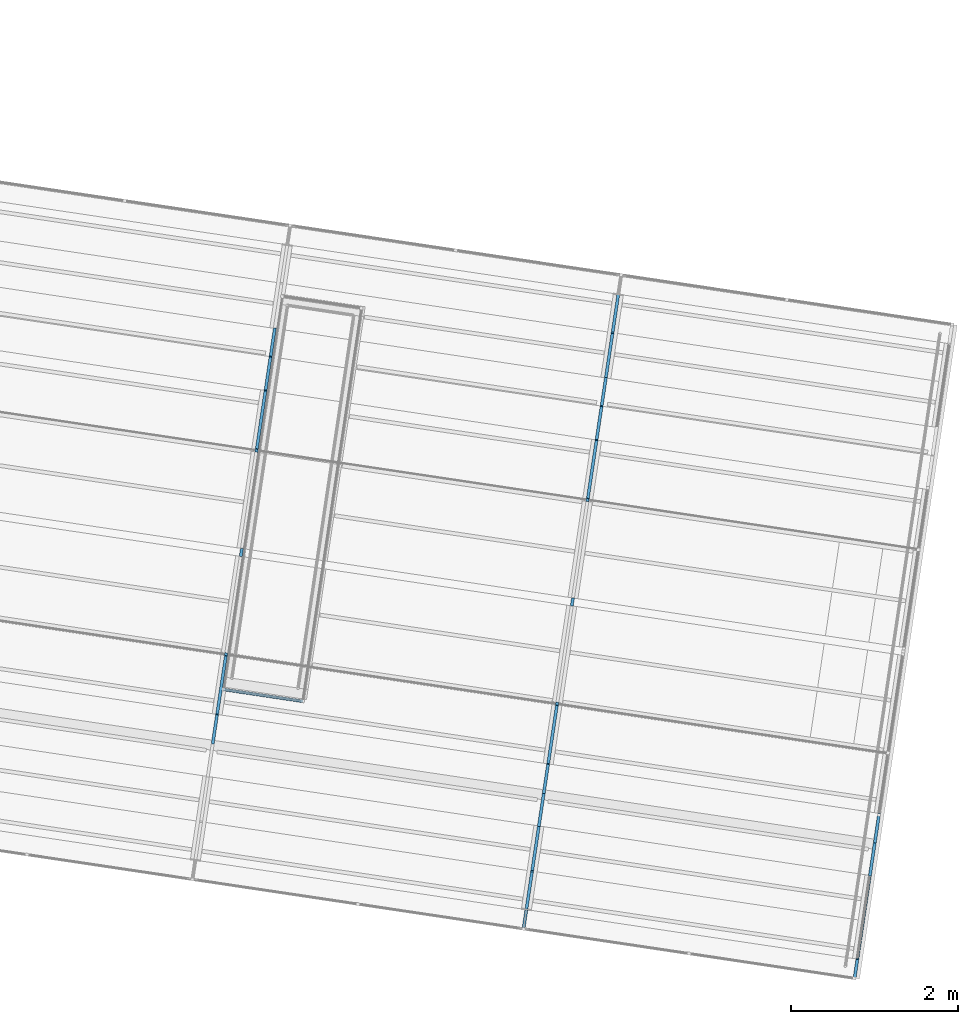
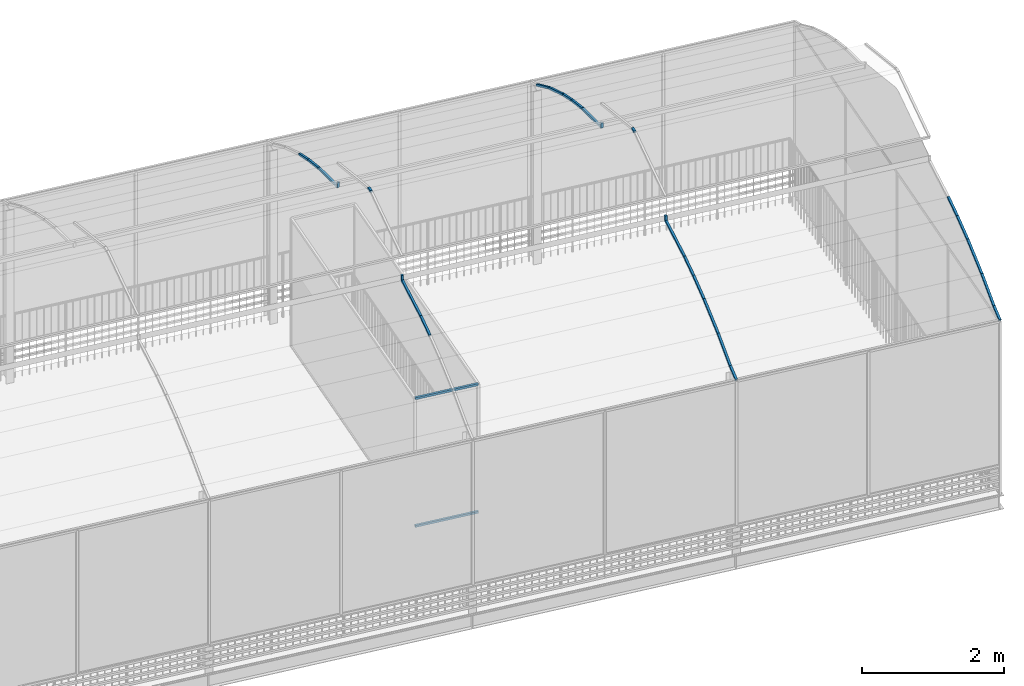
# One storey, part 22 of 34: 29 members, 1 element without a shape of its own.
"""IFC4 building model written with IfcOpenShell, lengths in metres."""

import ifcopenshell
import ifcopenshell.guid

model = None  # the IFC model being written
_history = None  # IfcOwnerHistory: only IFC2X3 demands one
_inside = {}  # id of a spatial element -> (the spatial element, [elements in it])
_under = {}  # id of a project, library or spatial element -> (it, [spatial elements below it])
_declared = {}  # id of a project -> (the project, [libraries it declares])
_typed = {}  # id of a type object -> (the type object, [elements of that type])
_made_of = {}  # id of a material, layer set ... -> (it, [elements and type objects made of it])


def new_model(schema):
    """Start an empty IFC model of exactly this schema.

    Asked for "IFC4X3", IfcOpenShell would pick the latest addendum, in which some entities
    have other attributes; the version numbers below select the first issue.
    IFC2X3 requires an IfcOwnerHistory on every rooted entity: one is made here for all.
    """
    global model, _history
    if schema == "IFC4X3":
        model = ifcopenshell.file(schema_version=(4, 3, 0, 0))
    else:
        model = ifcopenshell.file(schema=schema)
    _inside.clear()
    _under.clear()
    _declared.clear()
    _typed.clear()
    _made_of.clear()
    _history = None
    if model.schema == "IFC2X3":
        org = make("IfcOrganization", Name="unknown")
        user = make(
            "IfcPersonAndOrganization",
            ThePerson=make("IfcPerson", FamilyName="unknown"),
            TheOrganization=org,
        )
        app = make(
            "IfcApplication",
            ApplicationDeveloper=org,
            Version="unknown",
            ApplicationFullName="unknown",
            ApplicationIdentifier="unknown",
        )
        _history = make(
            "IfcOwnerHistory",
            OwningUser=user,
            OwningApplication=app,
            ChangeAction="ADDED",
            CreationDate=0,
        )
    return model


def make(cls, **values):
    """One entity of the class cls with the attributes given. An attribute that is None is left unset."""
    return model.create_entity(
        cls, **{name: value for name, value in values.items() if value is not None}
    )


def rooted(cls, **values):
    """An entity with a GlobalId (a new one), such as an element, a storey or a relation."""
    return make(cls, GlobalId=ifcopenshell.guid.new(), OwnerHistory=_history, **values)


def si_unit(unit_type, name, prefix=None):
    """IfcSIUnit, for example si_unit("LENGTHUNIT", "METRE", prefix="MILLI")."""
    return make("IfcSIUnit", UnitType=unit_type, Prefix=prefix, Name=name)


def assignment(units):
    """IfcUnitAssignment: the units of a project."""
    return None if units is None else make("IfcUnitAssignment", Units=units)


def point(xyz):
    """IfcCartesianPoint."""
    return None if xyz is None else make("IfcCartesianPoint", Coordinates=xyz)


def direction(xyz):
    """IfcDirection."""
    return None if xyz is None else make("IfcDirection", DirectionRatios=xyz)


def frame(location, z_axis=None, x_axis=None):
    """IfcAxis2Placement3D, a coordinate frame: its origin and axes. An axis left out is left unset."""
    return make(
        "IfcAxis2Placement3D",
        Location=point(location),
        Axis=direction(z_axis),
        RefDirection=direction(x_axis),
    )


def origin_with_axes():
    """The frame at (0, 0, 0) with the z axis (0, 0, 1) and the x axis (1, 0, 0) written out."""
    return frame((0.0, 0.0, 0.0), z_axis=(0.0, 0.0, 1.0), x_axis=(1.0, 0.0, 0.0))


def place(relative_to, where):
    """IfcLocalPlacement: puts the frame where relative to a parent placement (None: the world)."""
    return make(
        "IfcLocalPlacement", PlacementRelTo=relative_to, RelativePlacement=where
    )


def context(
    kind, dimensions, precision=None, world=None, true_north=None, identifier=None
):
    """IfcGeometricRepresentationContext, for example the 3D "Model" context."""
    return make(
        "IfcGeometricRepresentationContext",
        ContextIdentifier=identifier,
        ContextType=kind,
        CoordinateSpaceDimension=dimensions,
        Precision=precision,
        WorldCoordinateSystem=world,
        TrueNorth=true_north,
    )


def subcontext(parent, identifier, kind, view, scale=None):
    """IfcGeometricRepresentationSubContext, for example "Body" below "Model"."""
    return make(
        "IfcGeometricRepresentationSubContext",
        ContextIdentifier=identifier,
        ContextType=kind,
        ParentContext=parent,
        TargetScale=scale,
        TargetView=view,
    )


def project(units=None, contexts=None):
    """IfcProject with its units and contexts."""
    return rooted(
        "IfcProject",
        Name="project",
        RepresentationContexts=contexts,
        UnitsInContext=assignment(units),
    )


def spatial(cls, under=None, at=None, **own):
    """A site, building, storey or space (cls), placed at a placement, below another one or the project."""
    s = rooted(cls, ObjectPlacement=at, **own)
    if under is not None:
        _under.setdefault(under.id(), (under, []))[1].append(s)
    return s


def profile(cls, at=None, kind="AREA", **sizes):
    """A parametric profile (cls). Its sizes go by their IFC names, for example OverallWidth=200.0."""
    return make(cls, ProfileType=kind, Position=at, **sizes)


def rectangle(**sizes):
    """IfcRectangleProfileDef."""
    return profile("IfcRectangleProfileDef", **sizes)


def extrude(swept, where, along, depth):
    """IfcExtrudedAreaSolid: the profile swept, set in the frame where, extruded along a direction by depth."""
    return make(
        "IfcExtrudedAreaSolid",
        SweptArea=swept,
        Position=where,
        ExtrudedDirection=direction(along),
        Depth=depth,
    )


def shape(context_of_items, identifier, shape_type, items):
    """IfcShapeRepresentation: the items that make up one representation, for example the "Body"."""
    return make(
        "IfcShapeRepresentation",
        ContextOfItems=context_of_items,
        RepresentationIdentifier=identifier,
        RepresentationType=shape_type,
        Items=items,
    )


def material(Name=None, Category=None):
    """IfcMaterial."""
    return make("IfcMaterial", Name=Name, Category=Category)


def material_profile(
    of_material, cross_section, Name=None, Category=None, Priority=None
):
    """IfcMaterialProfile: a cross section and its material."""
    return make(
        "IfcMaterialProfile",
        Name=Name,
        Material=of_material,
        Profile=cross_section,
        Priority=Priority,
        Category=Category,
    )


def profile_set(profiles, Name=None, composite=None):
    """IfcMaterialProfileSet."""
    return make(
        "IfcMaterialProfileSet",
        Name=Name,
        MaterialProfiles=profiles,
        CompositeProfile=composite,
    )


def profile_usage(for_profile_set, cardinal=None, extent=None):
    """IfcMaterialProfileSetUsage: how a profile set lies along its element."""
    return make(
        "IfcMaterialProfileSetUsage",
        ForProfileSet=for_profile_set,
        CardinalPoint=cardinal,
        ReferenceExtent=extent,
    )


def made_of(thing, what):
    """Note that an element or type object is made of a material, layer set ...; save() writes the relation."""
    if what is not None:
        _made_of.setdefault(what.id(), (what, []))[1].append(thing)
    return thing


def type_object(cls, material=None, **own):
    """A type object (cls), such as IfcWallType, which elements share."""
    return made_of(rooted(cls, **own), material)


def element(
    cls,
    number,
    at=None,
    inside=None,
    cuts=None,
    type_object=None,
    material=None,
    context=None,
    identifier="Body",
    shape_type=None,
    held_by="IfcProductDefinitionShape",
    body=None,
    shapes=None,
    **own,
):
    """One element of the class cls, such as IfcWall. Its Tag is "e" and its number.

    at: its placement. inside: the storey or other place that contains it. cuts: it is an
    opening in that element (IfcRelVoidsElement). A single representation is given by context,
    identifier, shape_type and body (its items); several are given by shapes. held_by: the class
    of the entity that holds the representations. save() writes the other relations.
    """
    e = rooted(cls, Tag="e%d" % number, ObjectPlacement=at, **own)
    if body is not None:
        shapes = [shape(context, identifier, shape_type, body)]
    if shapes is not None:
        e.Representation = make(held_by, Representations=shapes)
    if inside is not None:
        _inside.setdefault(inside.id(), (inside, []))[1].append(e)
    if cuts is not None:
        rooted(
            "IfcRelVoidsElement", RelatingBuildingElement=cuts, RelatedOpeningElement=e
        )
    if type_object is not None:
        _typed.setdefault(type_object.id(), (type_object, []))[1].append(e)
    return made_of(e, material)


def aggregate(whole, parts):
    """IfcRelAggregates: a whole, such as a stair, and the parts it consists of."""
    return rooted("IfcRelAggregates", RelatingObject=whole, RelatedObjects=parts)


def save(model, path):
    """Write the relations noted so far, then the file.

    IfcRelAggregates (storeys below a building ...), IfcRelContainedInSpatialStructure (elements
    in a storey), IfcRelDefinesByType, IfcRelAssociatesMaterial and IfcRelDeclares: one each for
    every whole, place, type object, material and project.
    """
    for whole, parts in _under.values():
        aggregate(whole, parts)
    for where, things in _inside.values():
        rooted(
            "IfcRelContainedInSpatialStructure",
            RelatedElements=things,
            RelatingStructure=where,
        )
    for kind, things in _typed.values():
        rooted("IfcRelDefinesByType", RelatedObjects=things, RelatingType=kind)
    for what, things in _made_of.values():
        rooted("IfcRelAssociatesMaterial", RelatedObjects=things, RelatingMaterial=what)
    for by, libraries in _declared.values():
        rooted("IfcRelDeclares", RelatingContext=by, RelatedDefinitions=libraries)
    model.write(path)


model = new_model("IFC4")

# Units and contexts
model_context = context("Model", 3, precision=1e-05, world=origin_with_axes(), true_north=direction((0.0, 1.0)))
body_context = subcontext(model_context, "Body", "Model", "MODEL_VIEW")
ifc_project = project(units=[si_unit("AREAUNIT", "SQUARE_METRE"), si_unit("VOLUMEUNIT", "CUBIC_METRE"), si_unit("LENGTHUNIT", "METRE")], contexts=[model_context])

# Site, building, storey
site_placement = place(None, origin_with_axes())
site = spatial("IfcSite", under=ifc_project, at=site_placement, Name="Lares · Rua das Mercês · artigo 4771")
building_placement = place(site_placement, frame((15.0, 9.7, 14.65), z_axis=(0.0, 0.0, 1.0), x_axis=(0.989015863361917, -0.147809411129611, 0.0)))
building = spatial("IfcBuilding", under=site, at=building_placement, Name="Casa Sobreposta")
storey_placement = place(building_placement, frame((0.0, 0.0, 3.24), z_axis=(0.0, 0.0, 1.0), x_axis=(1.0, 0.0, 0.0)))
storey = spatial("IfcBuildingStorey", under=building, at=storey_placement, Name="01 · Jardim de inverno", Elevation=17.89)

# Roof, members
ifc_material_1 = material(Name="Vidro / Normalglas", Category="glass")
roof_placement = place(storey_placement, frame((0.0, 0.0, -3.24), z_axis=(0.0, 0.0, 1.0), x_axis=(1.0, 0.0, 0.0)))
roof = element("IfcRoof", 1, at=roof_placement, inside=storey, material=ifc_material_1, Name="Cobertura translúcida da estufa", PredefinedType="BARREL_ROOF")
ifc_material_2 = material(Name="Aço pintado / Stahl lackiert", Category="steel")
ifc_material_profile = material_profile(ifc_material_2, rectangle(XDim=0.035, YDim=0.035))
ifc_profile_set = profile_set([ifc_material_profile], Name="R0.035")
ifc_profile_usage_1 = profile_usage(ifc_profile_set)
member_type = type_object("IfcMemberType", Name="R0.035 / steel", PredefinedType="NOTDEFINED", material=ifc_profile_set)
member_1_placement = place(roof_placement, frame((28.0, -1.5, 6.23430000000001), z_axis=(0.0, 0.932991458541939, 0.35989851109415), x_axis=(1.0, 0.0, 0.0)))
member_1 = element("IfcMember", 2, at=member_1_placement, type_object=member_type, material=ifc_profile_usage_1, Name="Arco estufa 28/0", context=body_context, shape_type="SweptSolid", body=[
    extrude(rectangle(XDim=0.035, YDim=0.035), origin_with_axes(), (0.0, 0.0, 1.0), 0.249032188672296),
])
ifc_profile_usage_2 = profile_usage(ifc_profile_set)
member_2_placement = place(roof_placement, frame((32.0, -1.5, 6.23430000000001), z_axis=(0.0, 0.932991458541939, 0.35989851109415), x_axis=(1.0, 0.0, 0.0)))
member_2 = element("IfcMember", 3, at=member_2_placement, type_object=member_type, material=ifc_profile_usage_2, Name="Arco estufa 32/0", context=body_context, shape_type="SweptSolid", body=[
    extrude(rectangle(XDim=0.035, YDim=0.035), origin_with_axes(), (0.0, 0.0, 1.0), 0.249032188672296),
])
ifc_profile_usage_3 = profile_usage(ifc_profile_set)
member_3_placement = place(roof_placement, frame((28.0, -1.26765509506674, 6.32392631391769), z_axis=(0.0, 0.878851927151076, 0.477094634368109), x_axis=(1.0, 0.0, 0.0)))
member_3 = element("IfcMember", 4, at=member_3_placement, type_object=member_type, material=ifc_profile_usage_3, Name="Arco estufa 28/1", context=body_context, shape_type="SweptSolid", body=[
    extrude(rectangle(XDim=0.035, YDim=0.035), origin_with_axes(), (0.0, 0.0, 1.0), 0.52863528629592),
])
ifc_profile_usage_4 = profile_usage(ifc_profile_set)
member_4_placement = place(roof_placement, frame((32.0, -1.26765509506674, 6.32392631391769), z_axis=(0.0, 0.878851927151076, 0.477094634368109), x_axis=(1.0, 0.0, 0.0)))
member_4 = element("IfcMember", 5, at=member_4_placement, type_object=member_type, material=ifc_profile_usage_4, Name="Arco estufa 32/1", context=body_context, shape_type="SweptSolid", body=[
    extrude(rectangle(XDim=0.035, YDim=0.035), origin_with_axes(), (0.0, 0.0, 1.0), 0.52863528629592),
])
ifc_profile_usage_5 = profile_usage(ifc_profile_set)
member_5_placement = place(roof_placement, frame((28.0, -0.803062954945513, 6.57613537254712), z_axis=(0.0, 0.915885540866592, 0.401439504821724), x_axis=(1.0, 0.0, 0.0)))
member_5 = element("IfcMember", 6, at=member_5_placement, type_object=member_type, material=ifc_profile_usage_5, Name="Arco estufa 28/2", context=body_context, shape_type="SweptSolid", body=[
    extrude(rectangle(XDim=0.035, YDim=0.035), origin_with_axes(), (0.0, 0.0, 1.0), 0.596771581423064),
])
ifc_profile_usage_6 = profile_usage(ifc_profile_set)
member_6_placement = place(roof_placement, frame((32.0, -0.803062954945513, 6.57613537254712), z_axis=(0.0, 0.915885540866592, 0.401439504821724), x_axis=(1.0, 0.0, 0.0)))
member_6 = element("IfcMember", 7, at=member_6_placement, type_object=member_type, material=ifc_profile_usage_6, Name="Arco estufa 32/2", context=body_context, shape_type="SweptSolid", body=[
    extrude(rectangle(XDim=0.035, YDim=0.035), origin_with_axes(), (0.0, 0.0, 1.0), 0.596771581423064),
])
ifc_profile_usage_7 = profile_usage(ifc_profile_set)
member_7_placement = place(roof_placement, frame((28.0, -0.256488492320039, 6.81570306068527), z_axis=(0.0, 0.942820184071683, 0.333301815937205), x_axis=(1.0, 0.0, 0.0)))
member_7 = element("IfcMember", 8, at=member_7_placement, type_object=member_type, material=ifc_profile_usage_7, Name="Arco estufa 28/3", context=body_context, shape_type="SweptSolid", body=[
    extrude(rectangle(XDim=0.035, YDim=0.035), origin_with_axes(), (0.0, 0.0, 1.0), 0.423025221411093),
])
ifc_profile_usage_8 = profile_usage(ifc_profile_set)
member_8_placement = place(roof_placement, frame((32.0, -0.256488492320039, 6.81570306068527), z_axis=(0.0, 0.942820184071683, 0.333301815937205), x_axis=(1.0, 0.0, 0.0)))
member_8 = element("IfcMember", 9, at=member_8_placement, type_object=member_type, material=ifc_profile_usage_8, Name="Arco estufa 32/3", context=body_context, shape_type="SweptSolid", body=[
    extrude(rectangle(XDim=0.035, YDim=0.035), origin_with_axes(), (0.0, 0.0, 1.0), 0.423025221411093),
])
ifc_profile_usage_9 = profile_usage(ifc_profile_set)
member_9_placement = place(roof_placement, frame((24.0, 0.142348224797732, 6.95669813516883), z_axis=(0.0, 0.959692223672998, 0.281053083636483), x_axis=(1.0, 0.0, 0.0)))
member_9 = element("IfcMember", 10, at=member_9_placement, type_object=member_type, material=ifc_profile_usage_9, Name="Arco estufa 24/4", context=body_context, shape_type="SweptSolid", body=[
    extrude(rectangle(XDim=0.035, YDim=0.035), origin_with_axes(), (0.0, 0.0, 1.0), 0.365557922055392),
])
ifc_profile_usage_10 = profile_usage(ifc_profile_set)
member_10_placement = place(roof_placement, frame((28.0, 0.142348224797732, 6.95669813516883), z_axis=(0.0, 0.959692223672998, 0.281053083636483), x_axis=(1.0, 0.0, 0.0)))
member_10 = element("IfcMember", 11, at=member_10_placement, type_object=member_type, material=ifc_profile_usage_10, Name="Arco estufa 28/4", context=body_context, shape_type="SweptSolid", body=[
    extrude(rectangle(XDim=0.035, YDim=0.035), origin_with_axes(), (0.0, 0.0, 1.0), 0.365557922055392),
])
ifc_profile_usage_11 = profile_usage(ifc_profile_set)
member_11_placement = place(roof_placement, frame((32.0, 0.142348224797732, 6.95669813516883), z_axis=(0.0, 0.959692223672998, 0.281053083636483), x_axis=(1.0, 0.0, 0.0)))
member_11 = element("IfcMember", 12, at=member_11_placement, type_object=member_type, material=ifc_profile_usage_11, Name="Arco estufa 32/4", context=body_context, shape_type="SweptSolid", body=[
    extrude(rectangle(XDim=0.035, YDim=0.035), origin_with_axes(), (0.0, 0.0, 1.0), 0.365557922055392),
])
ifc_profile_usage_12 = profile_usage(ifc_profile_set)
member_12_placement = place(roof_placement, frame((24.0, 0.493171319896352, 7.05943931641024), z_axis=(0.0, 0.977995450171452, 0.208626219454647), x_axis=(1.0, 0.0, 0.0)))
member_12 = element("IfcMember", 13, at=member_12_placement, type_object=member_type, material=ifc_profile_usage_12, Name="Arco estufa 24/5", context=body_context, shape_type="SweptSolid", body=[
    extrude(rectangle(XDim=0.035, YDim=0.035), origin_with_axes(), (0.0, 0.0, 1.0), 0.737465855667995),
])
ifc_profile_usage_13 = profile_usage(ifc_profile_set)
member_13_placement = place(roof_placement, frame((28.0, 0.493171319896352, 7.05943931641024), z_axis=(0.0, 0.977995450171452, 0.208626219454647), x_axis=(1.0, 0.0, 0.0)))
member_13 = element("IfcMember", 14, at=member_13_placement, type_object=member_type, material=ifc_profile_usage_13, Name="Arco estufa 28/5", context=body_context, shape_type="SweptSolid", body=[
    extrude(rectangle(XDim=0.035, YDim=0.035), origin_with_axes(), (0.0, 0.0, 1.0), 0.737465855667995),
])
ifc_profile_usage_14 = profile_usage(ifc_profile_set)
member_14_placement = place(roof_placement, frame((24.0, 1.21440957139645, 7.21329402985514), z_axis=(0.0, 0.0686229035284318, 0.997642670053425), x_axis=(1.0, 0.0, 0.0)))
member_14 = element("IfcMember", 15, at=member_14_placement, type_object=member_type, material=ifc_profile_usage_14, Name="Arco estufa 24/6", context=body_context, shape_type="SweptSolid", body=[
    extrude(rectangle(XDim=0.035, YDim=0.035), origin_with_axes(), (0.0, 0.0, 1.0), 0.0875893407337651),
])
ifc_profile_usage_15 = profile_usage(ifc_profile_set)
member_15_placement = place(roof_placement, frame((28.0, 1.21440957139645, 7.21329402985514), z_axis=(0.0, 0.0686229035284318, 0.997642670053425), x_axis=(1.0, 0.0, 0.0)))
member_15 = element("IfcMember", 16, at=member_15_placement, type_object=member_type, material=ifc_profile_usage_15, Name="Arco estufa 28/6", context=body_context, shape_type="SweptSolid", body=[
    extrude(rectangle(XDim=0.035, YDim=0.035), origin_with_axes(), (0.0, 0.0, 1.0), 0.0875893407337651),
])
ifc_profile_usage_16 = profile_usage(ifc_profile_set)
member_16_placement = place(roof_placement, frame((24.0, 2.40274082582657, 7.96518238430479), z_axis=(0.0, 1.0, 0.0), x_axis=(1.0, 0.0, 0.0)))
member_16 = element("IfcMember", 17, at=member_16_placement, type_object=member_type, material=ifc_profile_usage_16, Name="Arco estufa 24/8", context=body_context, shape_type="SweptSolid", body=[
    extrude(rectangle(XDim=0.035, YDim=0.035), origin_with_axes(), (0.0, 0.0, 1.0), 0.0949594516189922),
])
ifc_profile_usage_17 = profile_usage(ifc_profile_set)
member_17_placement = place(roof_placement, frame((28.0, 2.40274082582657, 7.96518238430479), z_axis=(0.0, 1.0, 0.0), x_axis=(1.0, 0.0, 0.0)))
member_17 = element("IfcMember", 18, at=member_17_placement, type_object=member_type, material=ifc_profile_usage_17, Name="Arco estufa 28/8", context=body_context, shape_type="SweptSolid", body=[
    extrude(rectangle(XDim=0.035, YDim=0.035), origin_with_axes(), (0.0, 0.0, 1.0), 0.0949594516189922),
])
ifc_profile_usage_18 = profile_usage(ifc_profile_set)
member_18_placement = place(roof_placement, frame((24.0, 3.68002089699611, 7.30067689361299), z_axis=(0.0, 0.0651953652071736, -0.997872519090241), x_axis=(1.0, 0.0, 0.0)))
member_18 = element("IfcMember", 19, at=member_18_placement, type_object=member_type, material=ifc_profile_usage_18, Name="Arco estufa 24/10", context=body_context, shape_type="SweptSolid", body=[
    extrude(rectangle(XDim=0.035, YDim=0.035), origin_with_axes(), (0.0, 0.0, 1.0), 0.0875840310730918),
])
ifc_profile_usage_19 = profile_usage(ifc_profile_set)
member_19_placement = place(roof_placement, frame((28.0, 3.68002089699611, 7.30067689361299), z_axis=(0.0, 0.0651953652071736, -0.997872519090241), x_axis=(1.0, 0.0, 0.0)))
member_19 = element("IfcMember", 20, at=member_19_placement, type_object=member_type, material=ifc_profile_usage_19, Name="Arco estufa 28/10", context=body_context, shape_type="SweptSolid", body=[
    extrude(rectangle(XDim=0.035, YDim=0.035), origin_with_axes(), (0.0, 0.0, 1.0), 0.0875840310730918),
])
ifc_profile_usage_20 = profile_usage(ifc_profile_set)
member_20_placement = place(roof_placement, frame((24.0, 3.68573096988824, 7.21327919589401), z_axis=(0.0, 0.977996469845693, -0.208621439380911), x_axis=(1.0, 0.0, 0.0)))
member_20 = element("IfcMember", 21, at=member_20_placement, type_object=member_type, material=ifc_profile_usage_20, Name="Arco estufa 24/11", context=body_context, shape_type="SweptSolid", body=[
    extrude(rectangle(XDim=0.035, YDim=0.035), origin_with_axes(), (0.0, 0.0, 1.0), 0.737400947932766),
])
ifc_profile_usage_21 = profile_usage(ifc_profile_set)
member_21_placement = place(roof_placement, frame((28.0, 3.68573096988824, 7.21327919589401), z_axis=(0.0, 0.977996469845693, -0.208621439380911), x_axis=(1.0, 0.0, 0.0)))
member_21 = element("IfcMember", 22, at=member_21_placement, type_object=member_type, material=ifc_profile_usage_21, Name="Arco estufa 28/11", context=body_context, shape_type="SweptSolid", body=[
    extrude(rectangle(XDim=0.035, YDim=0.035), origin_with_axes(), (0.0, 0.0, 1.0), 0.737400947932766),
])
ifc_profile_usage_22 = profile_usage(ifc_profile_set)
member_22_placement = place(roof_placement, frame((24.0, 4.40690649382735, 7.05944154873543), z_axis=(0.0, 0.958508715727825, -0.285063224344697), x_axis=(1.0, 0.0, 0.0)))
member_22 = element("IfcMember", 23, at=member_22_placement, type_object=member_type, material=ifc_profile_usage_22, Name="Arco estufa 24/12", context=body_context, shape_type="SweptSolid", body=[
    extrude(rectangle(XDim=0.035, YDim=0.035), origin_with_axes(), (0.0, 0.0, 1.0), 0.426177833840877),
])
ifc_profile_usage_23 = profile_usage(ifc_profile_set)
member_23_placement = place(roof_placement, frame((28.0, 4.40690649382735, 7.05944154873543), z_axis=(0.0, 0.958508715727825, -0.285063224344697), x_axis=(1.0, 0.0, 0.0)))
member_23 = element("IfcMember", 24, at=member_23_placement, type_object=member_type, material=ifc_profile_usage_23, Name="Arco estufa 28/12", context=body_context, shape_type="SweptSolid", body=[
    extrude(rectangle(XDim=0.035, YDim=0.035), origin_with_axes(), (0.0, 0.0, 1.0), 0.426177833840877),
])
ifc_profile_usage_24 = profile_usage(ifc_profile_set)
member_24_placement = place(roof_placement, frame((24.0, 4.81540166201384, 6.93795392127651), z_axis=(0.0, 0.941396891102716, -0.337300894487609), x_axis=(1.0, 0.0, 0.0)))
member_24 = element("IfcMember", 25, at=member_24_placement, type_object=member_type, material=ifc_profile_usage_24, Name="Arco estufa 24/13", context=body_context, shape_type="SweptSolid", body=[
    extrude(rectangle(XDim=0.035, YDim=0.035), origin_with_axes(), (0.0, 0.0, 1.0), 0.362337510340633),
])
ifc_profile_usage_25 = profile_usage(ifc_profile_set)
member_25_placement = place(roof_placement, frame((28.0, 4.81540166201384, 6.93795392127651), z_axis=(0.0, 0.941396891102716, -0.337300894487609), x_axis=(1.0, 0.0, 0.0)))
member_25 = element("IfcMember", 26, at=member_25_placement, type_object=member_type, material=ifc_profile_usage_25, Name="Arco estufa 28/13", context=body_context, shape_type="SweptSolid", body=[
    extrude(rectangle(XDim=0.035, YDim=0.035), origin_with_axes(), (0.0, 0.0, 1.0), 0.362337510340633),
])
ifc_profile_usage_26 = profile_usage(ifc_profile_set)
member_26_placement = place(roof_placement, frame((28.0, 5.15650506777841, 6.8157371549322), z_axis=(0.0, 0.915895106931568, -0.401417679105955), x_axis=(1.0, 0.0, 0.0)))
member_26 = element("IfcMember", 27, at=member_26_placement, type_object=member_type, material=ifc_profile_usage_26, Name="Arco estufa 28/14", context=body_context, shape_type="SweptSolid", body=[
    extrude(rectangle(XDim=0.035, YDim=0.035), origin_with_axes(), (0.0, 0.0, 1.0), 0.596721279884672),
])
ifc_profile_usage_27 = profile_usage(ifc_profile_set)
member_27_placement = place(roof_placement, frame((28.0, 5.70303916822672, 6.57620268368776), z_axis=(0.0, 0.878867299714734, -0.477066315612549), x_axis=(1.0, 0.0, 0.0)))
member_27 = element("IfcMember", 28, at=member_27_placement, type_object=member_type, material=ifc_profile_usage_27, Name="Arco estufa 28/15", context=body_context, shape_type="SweptSolid", body=[
    extrude(rectangle(XDim=0.035, YDim=0.035), origin_with_axes(), (0.0, 0.0, 1.0), 0.52859183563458),
])
aggregate(roof, [member_1, member_2, member_3, member_4, member_5, member_6, member_7, member_8, member_9, member_10, member_11, member_12, member_13, member_14, member_15, member_16, member_17, member_18, member_19, member_20, member_21, member_22, member_23, member_24, member_25, member_26, member_27])

# Members
ifc_profile_usage_28 = profile_usage(ifc_profile_set)
member_28_placement = place(storey_placement, frame((24.03, 0.8, 0.0), z_axis=(1.0, 0.0, 0.0), x_axis=(0.0, -1.0, 0.0)))
element("IfcMember", 29, at=member_28_placement, inside=storey, type_object=member_type, material=ifc_profile_usage_28, Name="Caixa térmica 2 · south · travessa", context=body_context, shape_type="SweptSolid", body=[
    extrude(rectangle(XDim=0.035, YDim=0.035), origin_with_axes(), (0.0, 0.0, 1.0), 0.960000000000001),
])
ifc_profile_usage_29 = profile_usage(ifc_profile_set)
member_29_placement = place(storey_placement, frame((24.03, 0.8, 2.2), z_axis=(1.0, 0.0, 0.0), x_axis=(0.0, -1.0, 0.0)))
element("IfcMember", 30, at=member_29_placement, inside=storey, type_object=member_type, material=ifc_profile_usage_29, Name="Caixa térmica 2 · south · travessa", context=body_context, shape_type="SweptSolid", body=[
    extrude(rectangle(XDim=0.035, YDim=0.035), origin_with_axes(), (0.0, 0.0, 1.0), 0.960000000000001),
])

save(model, "model.ifc")
